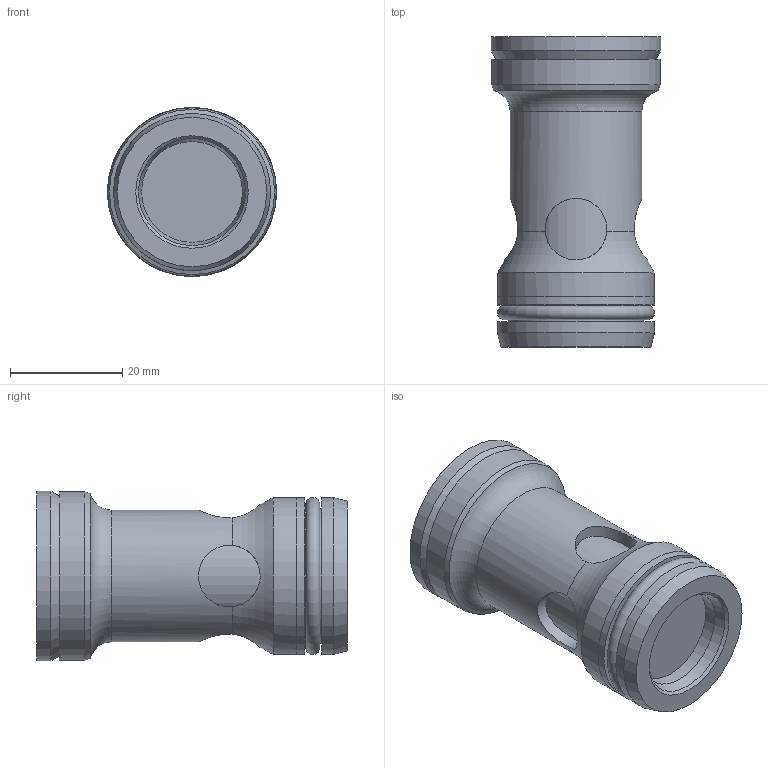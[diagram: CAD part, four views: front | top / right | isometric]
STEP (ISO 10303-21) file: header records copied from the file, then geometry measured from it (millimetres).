
FILE_DESCRIPTION(/* description */ (''),/* implementation_level */ '2;1');
FILE_NAME(/* name */ 'M-SR20插入式单向阀.prt.stp',/* time_stamp */ '2022-03-30T19:10:27+08:00',/* author */ (''),/* organization */ (''),/* preprocessor_version */ 'ST-DEVELOPER v16.7',/* originating_system */ 'SIEMENS PLM Software NX 12.0',/* authorisation */ '');
FILE_SCHEMA (('AUTOMOTIVE_DESIGN { 1 0 10303 214 3 1 1 1 }'));
Length unit declared in the file: millimetre
Products named in the file (1): M-SR20插入式单向阀
Bounding box: 30.2 x 55.3 x 30.2 mm (x, y, z)
Volume: 26313.1 mm3; surface area: 10182.9 mm2
Topology: 4 solids, 4 shells, 40 faces, 87 edges, 55 vertices
Faces by surface type: cylinder 17, plane 13, cone 7, torus 3
Full cylindrical faces by diameter (mm): 7 x1, 11 x4, 13.8 x1, 18 x1, 19 x1, 19.3 x1, 23.5 x1, 23.9 x2, 28 x3, 30 x1, 30.2 x1
Entity records: 1064 total; most frequent: CARTESIAN_POINT 293, DIRECTION 154, ORIENTED_EDGE 98, EDGE_LOOP 80, FACE_BOUND 79, AXIS2_PLACEMENT_3D 77, EDGE_CURVE 49, VERTEX_POINT 46
